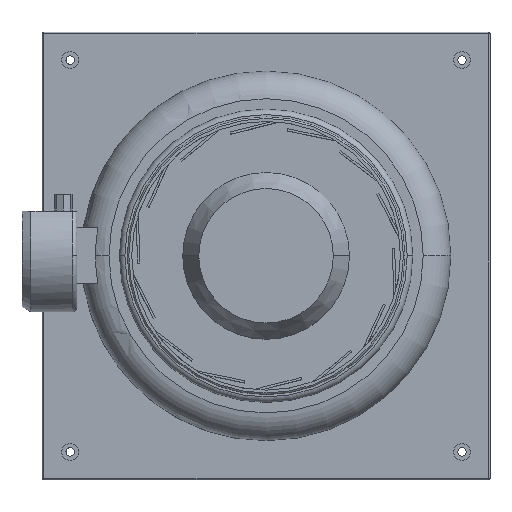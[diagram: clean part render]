
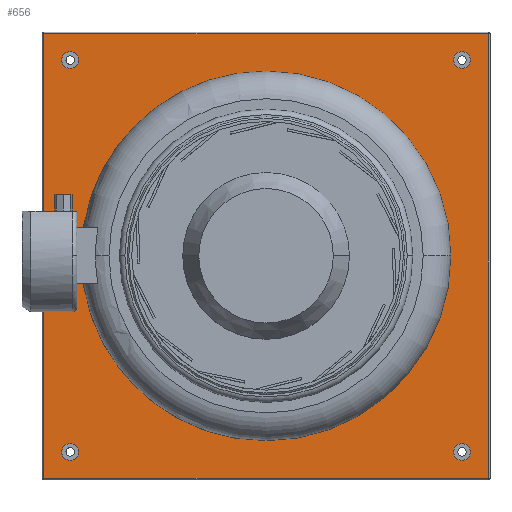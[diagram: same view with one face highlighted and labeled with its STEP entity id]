
A CAD part, top view. The second image highlights one B-rep face of the part: STEP entity #656.
In plain terms, the highlighted planar face has unit normal (0, 0, 1).
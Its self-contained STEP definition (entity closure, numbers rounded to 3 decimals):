
#656=ADVANCED_FACE('',(#1332,#1333,#1334,#1335,#1336,#1337),#1338,.T.);
#1332=FACE_BOUND('',#2009,.T.);
#1333=FACE_BOUND('',#2010,.T.);
#1334=FACE_BOUND('',#2011,.T.);
#1335=FACE_BOUND('',#2012,.T.);
#1336=FACE_BOUND('',#2013,.T.);
#1337=FACE_OUTER_BOUND('',#2014,.T.);
#1338=PLANE('',#2015);
#2009=EDGE_LOOP('',(#4069,#4070));
#2010=EDGE_LOOP('',(#4071,#4072));
#2011=EDGE_LOOP('',(#4073,#4074));
#2012=EDGE_LOOP('',(#4075,#4076));
#2013=EDGE_LOOP('',(#4077,#4078));
#2014=EDGE_LOOP('',(#4079,#4080,#4081,#4082));
#2015=AXIS2_PLACEMENT_3D('',#4083,#4084,#4085);
#4069=ORIENTED_EDGE('',*,*,#4244,.T.);
#4070=ORIENTED_EDGE('',*,*,#4339,.T.);
#4071=ORIENTED_EDGE('',*,*,#4139,.T.);
#4072=ORIENTED_EDGE('',*,*,#4831,.T.);
#4073=ORIENTED_EDGE('',*,*,#4129,.T.);
#4074=ORIENTED_EDGE('',*,*,#4838,.T.);
#4075=ORIENTED_EDGE('',*,*,#4119,.T.);
#4076=ORIENTED_EDGE('',*,*,#4845,.T.);
#4077=ORIENTED_EDGE('',*,*,#4109,.T.);
#4078=ORIENTED_EDGE('',*,*,#4852,.T.);
#4079=ORIENTED_EDGE('',*,*,#4924,.F.);
#4080=ORIENTED_EDGE('',*,*,#4864,.F.);
#4081=ORIENTED_EDGE('',*,*,#4926,.T.);
#4082=ORIENTED_EDGE('',*,*,#4909,.T.);
#4083=CARTESIAN_POINT('',(0.0,0.0,-60.0));
#4084=DIRECTION('',(0.0,-0.0,1.0));
#4085=DIRECTION('',(0.,1.0,0.0));
#4109=EDGE_CURVE('',#4942,#4939,#4943,.T.);
#4119=EDGE_CURVE('',#4960,#4957,#4961,.T.);
#4129=EDGE_CURVE('',#4978,#4975,#4979,.T.);
#4139=EDGE_CURVE('',#4996,#4993,#4997,.T.);
#4244=EDGE_CURVE('',#5188,#5185,#5189,.T.);
#4339=EDGE_CURVE('',#5185,#5188,#5329,.T.);
#4831=EDGE_CURVE('',#4993,#4996,#6037,.T.);
#4838=EDGE_CURVE('',#4975,#4978,#6044,.T.);
#4845=EDGE_CURVE('',#4957,#4960,#6051,.T.);
#4852=EDGE_CURVE('',#4939,#4942,#6058,.T.);
#4864=EDGE_CURVE('',#6062,#6075,#6076,.T.);
#4909=EDGE_CURVE('',#6135,#6094,#6139,.T.);
#4924=EDGE_CURVE('',#6075,#6094,#6154,.T.);
#4926=EDGE_CURVE('',#6062,#6135,#6156,.T.);
#4939=VERTEX_POINT('',#6171);
#4942=VERTEX_POINT('',#6175);
#4943=CIRCLE('',#6176,7.5);
#4957=VERTEX_POINT('',#6193);
#4960=VERTEX_POINT('',#6197);
#4961=CIRCLE('',#6198,7.5);
#4975=VERTEX_POINT('',#6215);
#4978=VERTEX_POINT('',#6219);
#4979=CIRCLE('',#6220,7.5);
#4993=VERTEX_POINT('',#6237);
#4996=VERTEX_POINT('',#6241);
#4997=CIRCLE('',#6242,7.5);
#5185=VERTEX_POINT('',#6500);
#5188=VERTEX_POINT('',#6504);
#5189=CIRCLE('',#6505,165.0);
#5329=CIRCLE('',#6849,165.0);
#6037=CIRCLE('',#8182,7.5);
#6044=CIRCLE('',#8189,7.5);
#6051=CIRCLE('',#8196,7.5);
#6058=CIRCLE('',#8203,7.5);
#6062=VERTEX_POINT('',#8207);
#6075=VERTEX_POINT('',#8222);
#6076=LINE('',#8223,#8224);
#6094=VERTEX_POINT('',#8245);
#6135=VERTEX_POINT('',#8294);
#6139=LINE('',#8298,#8299);
#6154=LINE('',#8321,#8322);
#6156=LINE('',#8324,#8325);
#6171=CARTESIAN_POINT('',(-175.0,182.5,-60.0));
#6175=CARTESIAN_POINT('',(-175.0,167.5,-60.0));
#6176=AXIS2_PLACEMENT_3D('',#8337,#8338,#8339);
#6193=CARTESIAN_POINT('',(-175.0,-167.5,-60.0));
#6197=CARTESIAN_POINT('',(-175.0,-182.5,-60.0));
#6198=AXIS2_PLACEMENT_3D('',#8353,#8354,#8355);
#6215=CARTESIAN_POINT('',(175.0,-167.5,-60.0));
#6219=CARTESIAN_POINT('',(175.0,-182.5,-60.0));
#6220=AXIS2_PLACEMENT_3D('',#8369,#8370,#8371);
#6237=CARTESIAN_POINT('',(175.0,182.5,-60.0));
#6241=CARTESIAN_POINT('',(175.0,167.5,-60.0));
#6242=AXIS2_PLACEMENT_3D('',#8385,#8386,#8387);
#6500=CARTESIAN_POINT('',(0.,165.0,-60.0));
#6504=CARTESIAN_POINT('',(0.,-165.0,-60.0));
#6505=AXIS2_PLACEMENT_3D('',#8585,#8586,#8587);
#6849=AXIS2_PLACEMENT_3D('',#8701,#8702,#8703);
#8182=AXIS2_PLACEMENT_3D('',#9181,#9182,#9183);
#8189=AXIS2_PLACEMENT_3D('',#9193,#9194,#9195);
#8196=AXIS2_PLACEMENT_3D('',#9205,#9206,#9207);
#8203=AXIS2_PLACEMENT_3D('',#9217,#9218,#9219);
#8207=CARTESIAN_POINT('',(198.5,198.5,-60.0));
#8222=CARTESIAN_POINT('',(198.5,-198.5,-60.0));
#8223=CARTESIAN_POINT('',(198.5,0.,-60.0));
#8224=VECTOR('',#9237,1.0);
#8245=CARTESIAN_POINT('',(-198.5,-198.5,-60.0));
#8294=CARTESIAN_POINT('',(-198.5,198.5,-60.0));
#8298=CARTESIAN_POINT('',(-198.5,0.,-60.0));
#8299=VECTOR('',#9309,1.0);
#8321=CARTESIAN_POINT('',(0.,-198.5,-60.0));
#8322=VECTOR('',#9317,1.0);
#8324=CARTESIAN_POINT('',(0.,198.5,-60.0));
#8325=VECTOR('',#9318,1.0);
#8337=CARTESIAN_POINT('',(-175.0,175.0,-60.0));
#8338=DIRECTION('',(0.0,0.0,-1.0));
#8339=DIRECTION('',(0.,1.0,0.0));
#8353=CARTESIAN_POINT('',(-175.0,-175.0,-60.0));
#8354=DIRECTION('',(0.0,0.0,-1.0));
#8355=DIRECTION('',(0.,1.0,0.0));
#8369=CARTESIAN_POINT('',(175.0,-175.0,-60.0));
#8370=DIRECTION('',(0.0,0.0,-1.0));
#8371=DIRECTION('',(0.,1.0,0.0));
#8385=CARTESIAN_POINT('',(175.0,175.0,-60.0));
#8386=DIRECTION('',(0.0,0.0,-1.0));
#8387=DIRECTION('',(0.,1.0,0.0));
#8585=CARTESIAN_POINT('',(0.0,0.0,-60.0));
#8586=DIRECTION('',(0.0,0.0,-1.0));
#8587=DIRECTION('',(0.,1.0,0.0));
#8701=CARTESIAN_POINT('',(0.0,0.0,-60.0));
#8702=DIRECTION('',(0.0,0.0,-1.0));
#8703=DIRECTION('',(0.,1.0,0.0));
#9181=CARTESIAN_POINT('',(175.0,175.0,-60.0));
#9182=DIRECTION('',(0.0,0.0,-1.0));
#9183=DIRECTION('',(0.,1.0,0.0));
#9193=CARTESIAN_POINT('',(175.0,-175.0,-60.0));
#9194=DIRECTION('',(0.0,0.0,-1.0));
#9195=DIRECTION('',(0.,1.0,0.0));
#9205=CARTESIAN_POINT('',(-175.0,-175.0,-60.0));
#9206=DIRECTION('',(0.0,0.0,-1.0));
#9207=DIRECTION('',(0.,1.0,0.0));
#9217=CARTESIAN_POINT('',(-175.0,175.0,-60.0));
#9218=DIRECTION('',(0.0,0.0,-1.0));
#9219=DIRECTION('',(0.,1.0,0.0));
#9237=DIRECTION('',(0.,-1.0,0.));
#9309=DIRECTION('',(0.,-1.0,0.));
#9317=DIRECTION('',(-1.0,0.,0.));
#9318=DIRECTION('',(-1.0,0.,0.));
